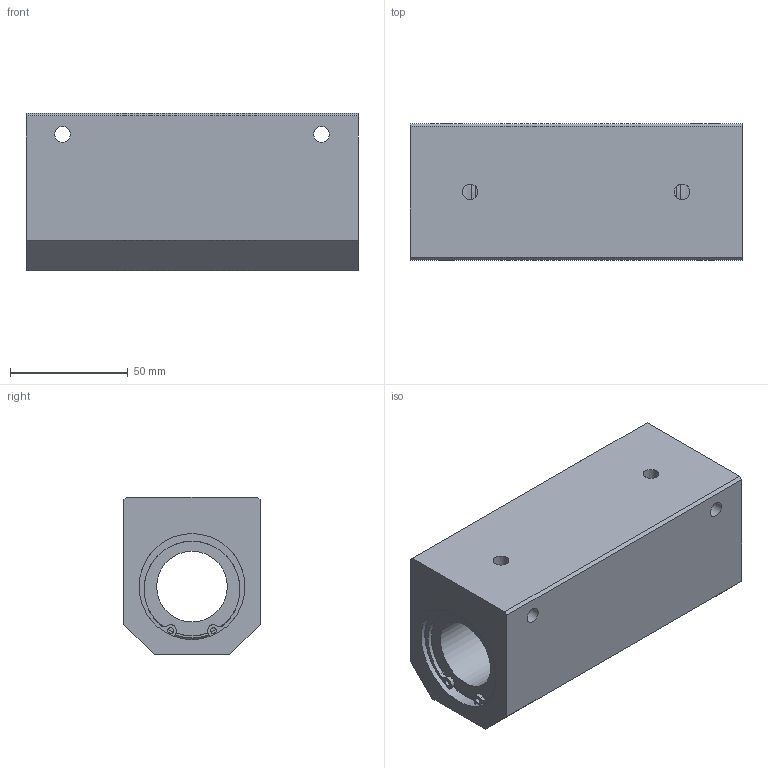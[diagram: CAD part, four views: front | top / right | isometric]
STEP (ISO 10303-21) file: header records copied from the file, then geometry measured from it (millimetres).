
FILE_DESCRIPTION((''),'2;1');
FILE_NAME('D:\製品 (図面)\カタログ用3D\メンテナンスフリー関連\STEP形式\CHW-MF\CHW30MF.stp','2010-06-01T15:34:10',('Tsuchiya'),(''),'Autodesk Inventor 10','Autodesk Inventor 10','');
FILE_SCHEMA(('AUTOMOTIVE_DESIGN { 1 0 10303 214 1 1 1 1 }'));
Length unit declared in the file: millimetre
Products named in the file (1): CHW30MF
Bounding box: 141 x 58 x 67 mm (x, y, z)
Volume: 410768.3 mm3; surface area: 58783.3 mm2
Topology: 1 solids, 1 shells, 77 faces, 217 edges, 132 vertices
Faces by surface type: plane 33, bspline 22, cylinder 20, torus 2
Full cylindrical faces by diameter (mm): 2.5 x2, 30 x1, 41.7 x2, 43 x2, 45 x2
Entity records: 2635 total; most frequent: CARTESIAN_POINT 769, DIRECTION 400, ORIENTED_EDGE 360, EDGE_CURVE 180, AXIS2_PLACEMENT_3D 174, CIRCLE 118, EDGE_LOOP 118, VERTEX_POINT 116
